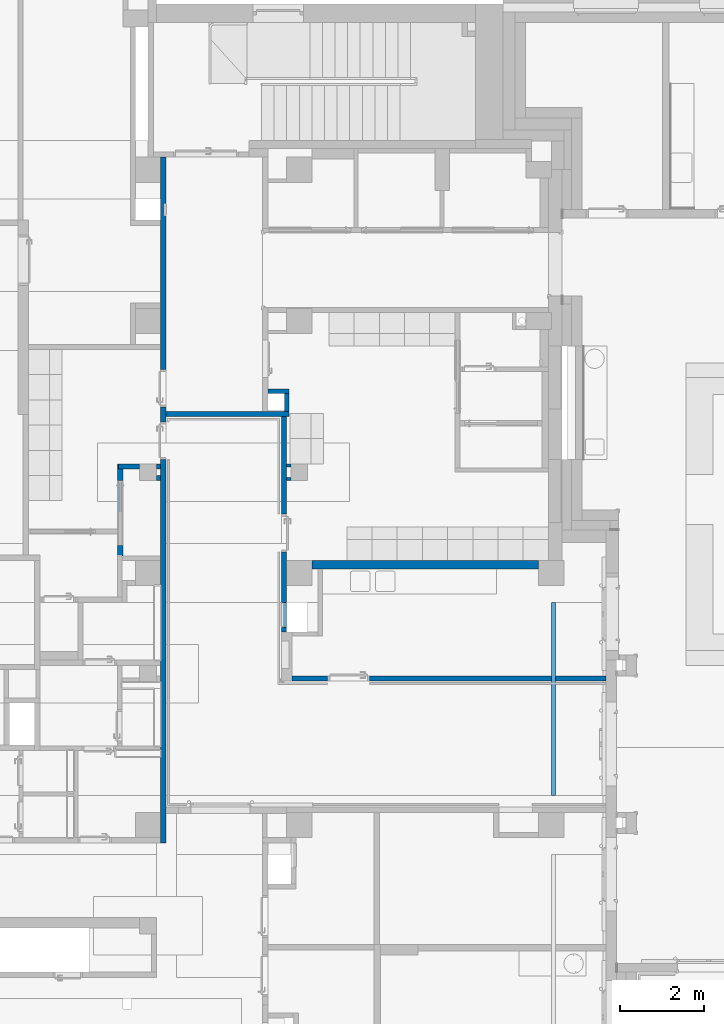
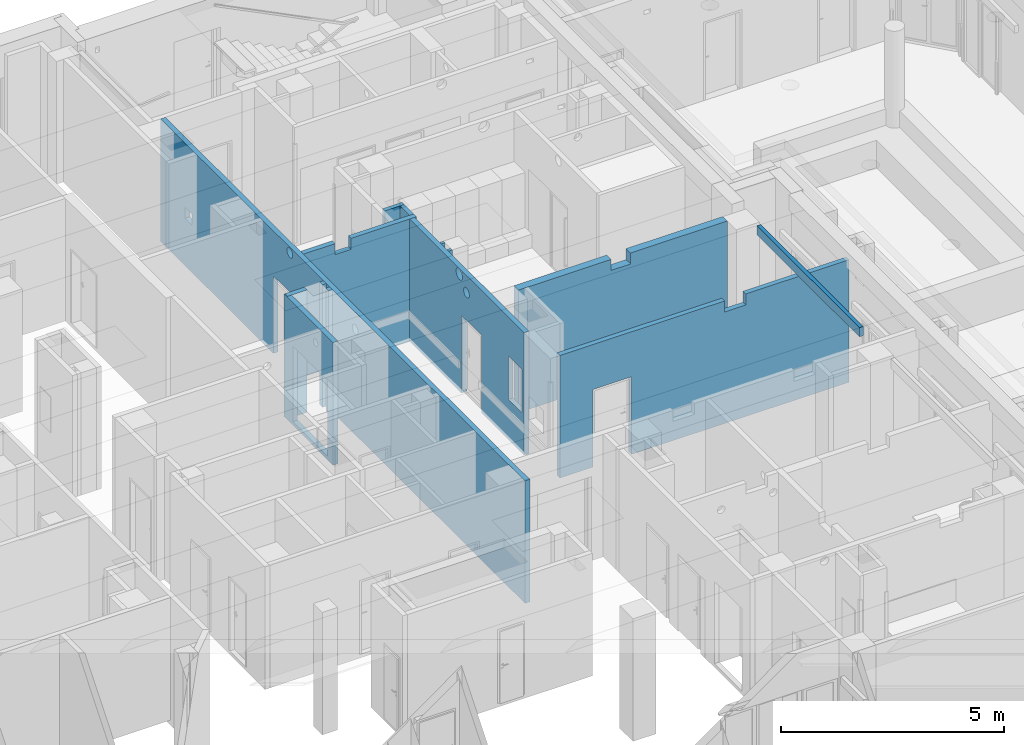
# One storey, part 51 of 140: 14 walls, 16 openings.
"""IFC4 building model written with IfcOpenShell, lengths in metres."""

from ifc_helpers import new_model, entity, si_unit, converted_unit, derived_unit, frame, frame_2d, origin, origin_with_axes, place, context, subcontext, project, spatial, polyline, rectangle, outline, extrude, material, layer, layer_set, layer_usage, element, save


model = new_model("IFC4")

# Units and contexts
model_context = context("Model", 3, precision=1e-05, world=origin())
body_context = subcontext(model_context, "Body", "Model", "MODEL_VIEW")
ifc_project = project(units=[si_unit("LENGTHUNIT", "METRE"), si_unit("AREAUNIT", "SQUARE_METRE"), si_unit("VOLUMEUNIT", "CUBIC_METRE"), si_unit("MASSUNIT", "GRAM", prefix="KILO"), converted_unit("PLANEANGLEUNIT", "DEGREE", entity("IfcPlaneAngleMeasure", 0.0174532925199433), si_unit("PLANEANGLEUNIT", "RADIAN"), dimensions=[0, 0, 0, 0, 0, 0, 0]), derived_unit("THERMALTRANSMITTANCEUNIT", [(si_unit("POWERUNIT", "WATT"), 1), (si_unit("THERMODYNAMICTEMPERATUREUNIT", "KELVIN"), -1), (si_unit("LENGTHUNIT", "METRE"), -2)]), derived_unit("VOLUMETRICFLOWRATEUNIT", [(si_unit("LENGTHUNIT", "METRE"), 3), (converted_unit("TIMEUNIT", "hour", entity("IfcTimeMeasure", 3600.0), si_unit("TIMEUNIT", "SECOND"), dimensions=[0, 0, 1, 0, 0, 0, 0]), -1), (si_unit("LENGTHUNIT", "METRE"), -1)])], contexts=[model_context])

# Site, building, storey
site_placement = place(None, origin())
site = spatial("IfcSite", under=ifc_project, at=site_placement, Name="3. ASŘ", CompositionType="ELEMENT")
building_placement = place(site_placement, origin())
building = spatial("IfcBuilding", under=site, at=building_placement, Name="Pavilon C", CompositionType="ELEMENT")
storey_placement = place(building_placement, origin())
storey = spatial("IfcBuildingStorey", under=building, at=storey_placement, Name="Půdorys 1.NP", CompositionType="ELEMENT", Elevation=0.0)

# Walls
ifc_material_1 = material(Name="ZDIVO Z CDm")
ifc_layer_1 = layer(ifc_material_1, 0.125)
ifc_layer_set_1 = layer_set([ifc_layer_1])
ifc_layer_usage_1 = layer_usage(ifc_layer_set_1, "AXIS2", "POSITIVE", 0.0)
wall_1_placement = place(storey_placement, frame((40.65, 21.8, -0.1), z_axis=(0.0, 0.0, 1.0), x_axis=(-1.0, 0.0, 0.0)))
element("IfcWall", 1, at=wall_1_placement, inside=storey, material=ifc_layer_usage_1, Name="ZDIVO Z CDm", context=body_context, shape_type="SweptSolid", body=[
    extrude(rectangle(XDim=0.1, YDim=0.125, at=frame_2d((0.05, 0.0625), x_axis=(1.0, 0.0))), origin_with_axes(), (0.0, 0.0, 1.0), 3.35),
])
ifc_material_2 = material(Name="ZDIVO Z CDm")
ifc_layer_2 = layer(ifc_material_2, 0.125)
ifc_layer_set_2 = layer_set([ifc_layer_2])
ifc_layer_usage_2 = layer_usage(ifc_layer_set_2, "AXIS2", "POSITIVE", 0.0)
wall_2_placement = place(storey_placement, frame((40.65, 21.525, -0.1), z_axis=(0.0, 0.0, 1.0), x_axis=(-1.0, 0.0, 0.0)))
element("IfcWall", 2, at=wall_2_placement, inside=storey, material=ifc_layer_usage_2, Name="ZDIVO Z CDm", context=body_context, shape_type="SweptSolid", body=[
    extrude(rectangle(XDim=0.1, YDim=0.125, at=frame_2d((0.05, 0.0625), x_axis=(1.0, 0.0))), origin_with_axes(), (0.0, 0.0, 1.0), 3.35),
])

# Wall, openings
ifc_material_3 = material(Name="ZDIVO Z CDm")
ifc_layer_3 = layer(ifc_material_3, 0.125)
ifc_layer_set_3 = layer_set([ifc_layer_3])
ifc_layer_usage_3 = layer_usage(ifc_layer_set_3, "AXIS2", "POSITIVE", 0.0)
wall_3_placement = place(storey_placement, frame((40.775, 12.775, -0.1), z_axis=(0.0, 0.0, 1.0), x_axis=(0.0, 1.0, 0.0)))
wall_3 = element("IfcWall", 3, at=wall_3_placement, inside=storey, material=ifc_layer_usage_3, Name="ZDIVO Z CDm", context=body_context, shape_type="SweptSolid", body=[
    extrude(rectangle(XDim=16.325, YDim=0.125, at=frame_2d((8.1625, 0.0625), x_axis=(1.0, 0.0))), origin_with_axes(), (0.0, 0.0, 1.0), 3.35),
])
opening_1_placement = place(wall_3_placement, frame((10.4048246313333, 0.0, 3.07), z_axis=(0.0, 1.0, 0.0), x_axis=(0.0, 0.0, 1.0)))
element("IfcOpeningElement", 4, at=opening_1_placement, cuts=wall_3, Name="VZT", ObjectType="Opening", context=body_context, shape_type="SweptSolid", body=[
    extrude(outline(polyline([(0.129999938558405, 0.0), (0.116411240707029, 0.000712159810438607), (0.102971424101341, 0.00284082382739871), (0.0898277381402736, 0.00636266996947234), (0.077124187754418, 0.0112391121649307), (0.0649999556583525, 0.0174167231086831), (0.0535878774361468, 0.0248278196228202), (0.0430129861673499, 0.0333912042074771), (0.0333911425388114, 0.0430130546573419), (0.0248277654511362, 0.0535879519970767), (0.0174166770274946, 0.0650000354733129), (0.0112390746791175, 0.0771242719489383), (0.00636264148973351, 0.089827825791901), (0.00284080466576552, 0.102971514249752), (0.000712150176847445, 0.116411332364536), (0.0, 0.130000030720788), (0.000712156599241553, 0.143588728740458), (0.00284081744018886, 0.157028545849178), (0.00636266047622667, 0.170172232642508), (0.0112390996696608, 0.182875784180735), (0.0174167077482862, 0.195000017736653), (0.0248278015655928, 0.206412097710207), (0.0333911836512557, 0.216986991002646), (0.0430130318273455, 0.226608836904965), (0.0535879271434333, 0.235172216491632), (0.0650000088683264, 0.242583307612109), (0.0771242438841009, 0.248760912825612), (0.0898277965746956, 0.253637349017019), (0.102971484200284, 0.257159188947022), (0.116411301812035, 0.259287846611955), (0.129999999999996, 0.26), (0.143588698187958, 0.259287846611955), (0.157028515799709, 0.257159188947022), (0.170172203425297, 0.253637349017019), (0.182875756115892, 0.248760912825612), (0.194999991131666, 0.242583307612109), (0.206412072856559, 0.235172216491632), (0.216986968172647, 0.226608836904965), (0.226608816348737, 0.216986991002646), (0.2351721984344, 0.206412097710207), (0.242583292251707, 0.195000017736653), (0.248760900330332, 0.182875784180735), (0.253637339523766, 0.170172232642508), (0.257159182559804, 0.157028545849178), (0.259287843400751, 0.143588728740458), (0.259999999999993, 0.130000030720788), (0.259287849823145, 0.116411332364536), (0.257159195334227, 0.102971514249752), (0.253637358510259, 0.089827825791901), (0.248760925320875, 0.0771242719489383), (0.242583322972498, 0.0650000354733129), (0.235172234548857, 0.0535879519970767), (0.226608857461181, 0.0430130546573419), (0.216987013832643, 0.0333912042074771), (0.206412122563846, 0.0248278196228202), (0.19500004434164, 0.0174167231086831), (0.182875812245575, 0.0112391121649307), (0.170172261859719, 0.00636266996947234), (0.157028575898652, 0.00284082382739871), (0.143588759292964, 0.000712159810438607), (0.129999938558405, 0.0)])), origin_with_axes(), (0.0, 0.0, 1.0), 0.125),
])
opening_2_placement = place(wall_3_placement, frame((10.375, 0.0, 0.0), z_axis=(0.0, 1.0, 0.0), x_axis=(0.0, 0.0, 1.0)))
element("IfcOpeningElement", 5, at=opening_2_placement, cuts=wall_3, Name="Dveřní otvor", ObjectType="Opening", context=body_context, shape_type="SweptSolid", body=[
    extrude(outline(polyline([(0.0, 0.9), (2.12, 0.9), (2.12, 0.0), (0.0, 0.0), (0.0, 0.9)])), origin_with_axes(), (0.0, 0.0, 1.0), 0.125),
])
opening_3_placement = place(wall_3_placement, frame((14.925, 0.0, 1.3), z_axis=(0.0, 1.0, 0.0), x_axis=(0.0, 0.0, 1.0)))
element("IfcOpeningElement", 6, at=opening_3_placement, cuts=wall_3, Name="Okenní otvor", ObjectType="Opening", context=body_context, shape_type="SweptSolid", body=[
    extrude(outline(polyline([(0.0, 0.3), (0.3, 0.3), (0.3, 0.0), (0.0, 0.0), (0.0, 0.3)])), origin_with_axes(), (0.0, 0.0, 1.0), 0.125),
])
opening_4_placement = place(wall_3_placement, frame((10.025, 0.125, 0.0), z_axis=(0.0, -1.0, 0.0), x_axis=(0.0, 0.0, 1.0)))
element("IfcOpeningElement", 7, at=opening_4_placement, cuts=wall_3, Name="Dveřní otvor", ObjectType="Opening", context=body_context, shape_type="SweptSolid", body=[
    extrude(outline(polyline([(0.0, 0.9), (2.12, 0.9), (2.12, 0.0), (0.0, 0.0), (0.0, 0.9)])), origin_with_axes(), (0.0, 0.0, 1.0), 0.125),
])
opening_5_placement = place(wall_3_placement, frame((7.47358383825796, 0.0, 2.75), z_axis=(0.0, 1.0, 0.0), x_axis=(0.0, 0.0, 1.0)))
element("IfcOpeningElement", 8, at=opening_5_placement, cuts=wall_3, Name="VZT", ObjectType="Opening", context=body_context, shape_type="SweptSolid", body=[
    extrude(outline(polyline([(0.129999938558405, 0.0), (0.116411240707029, 0.000712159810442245), (0.102971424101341, 0.00284082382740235), (0.0898277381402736, 0.00636266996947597), (0.077124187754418, 0.0112391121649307), (0.0649999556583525, 0.0174167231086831), (0.0535878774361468, 0.0248278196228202), (0.0430129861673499, 0.0333912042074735), (0.0333911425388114, 0.0430130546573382), (0.0248277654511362, 0.0535879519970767), (0.0174166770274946, 0.0650000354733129), (0.0112390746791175, 0.0771242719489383), (0.00636264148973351, 0.0898278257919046), (0.00284080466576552, 0.102971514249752), (0.000712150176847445, 0.116411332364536), (0.0, 0.130000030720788), (0.000712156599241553, 0.143588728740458), (0.00284081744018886, 0.157028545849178), (0.00636266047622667, 0.170172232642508), (0.0112390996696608, 0.182875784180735), (0.0174167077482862, 0.195000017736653), (0.0248278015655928, 0.206412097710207), (0.0333911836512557, 0.21698699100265), (0.0430130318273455, 0.226608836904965), (0.0535879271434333, 0.235172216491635), (0.0650000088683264, 0.242583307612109), (0.0771242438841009, 0.248760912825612), (0.0898277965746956, 0.253637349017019), (0.102971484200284, 0.257159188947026), (0.116411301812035, 0.259287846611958), (0.129999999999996, 0.26), (0.143588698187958, 0.259287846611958), (0.157028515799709, 0.257159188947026), (0.170172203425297, 0.253637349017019), (0.182875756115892, 0.248760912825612), (0.194999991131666, 0.242583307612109), (0.206412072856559, 0.235172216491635), (0.216986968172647, 0.226608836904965), (0.226608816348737, 0.21698699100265), (0.2351721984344, 0.206412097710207), (0.242583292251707, 0.195000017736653), (0.248760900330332, 0.182875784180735), (0.253637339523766, 0.170172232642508), (0.257159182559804, 0.157028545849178), (0.259287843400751, 0.143588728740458), (0.259999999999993, 0.130000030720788), (0.259287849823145, 0.116411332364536), (0.257159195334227, 0.102971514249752), (0.253637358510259, 0.0898278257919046), (0.248760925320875, 0.0771242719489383), (0.242583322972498, 0.0650000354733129), (0.235172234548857, 0.0535879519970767), (0.226608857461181, 0.0430130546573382), (0.216987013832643, 0.0333912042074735), (0.206412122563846, 0.0248278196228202), (0.19500004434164, 0.0174167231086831), (0.182875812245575, 0.0112391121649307), (0.170172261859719, 0.00636266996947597), (0.157028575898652, 0.00284082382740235), (0.143588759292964, 0.000712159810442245), (0.129999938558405, 0.0)])), origin_with_axes(), (0.0, 0.0, 1.0), 0.125),
])

# Wall
ifc_material_4 = material(Name="EPS")
ifc_layer_4 = layer(ifc_material_4, 0.1)
ifc_layer_set_4 = layer_set([ifc_layer_4])
ifc_layer_usage_4 = layer_usage(ifc_layer_set_4, "AXIS2", "POSITIVE", 0.0)
wall_4_placement = place(storey_placement, frame((49.95, 18.5, 3.25), z_axis=(0.0, 0.0, 1.0), x_axis=(0.0, -1.0, 0.0)))
element("IfcWall", 9, at=wall_4_placement, inside=storey, material=ifc_layer_usage_4, Name="EPS", context=body_context, shape_type="SweptSolid", body=[
    extrude(rectangle(XDim=4.6, YDim=0.1, at=frame_2d((2.3, 0.05), x_axis=(1.0, 0.0))), origin_with_axes(), (0.0, 0.0, 1.0), 0.25),
])

# Wall, openings
ifc_material_5 = material(Name="SDK - 1 KCE + DVOJITÉ OPLÁŠTĚNÍ")
ifc_layer_5 = layer(ifc_material_5, 0.125)
ifc_layer_set_5 = layer_set([ifc_layer_5])
ifc_layer_usage_5 = layer_usage(ifc_layer_set_5, "AXIS2", "POSITIVE", 0.0)
wall_5_placement = place(storey_placement, frame((43.525, 22.925, -0.1), z_axis=(0.0, 0.0, 1.0), x_axis=(0.0, -1.0, 0.0)))
wall_5 = element("IfcWall", 10, at=wall_5_placement, inside=storey, material=ifc_layer_usage_5, Name="SDK - 1 KCE + DVOJITÉ OPLÁŠTĚNÍ", context=body_context, shape_type="SweptSolid", body=[
    extrude(rectangle(XDim=5.12499999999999, YDim=0.125, at=frame_2d((2.5625, 0.0625), x_axis=(1.0, 0.0))), origin_with_axes(), (0.0, 0.0, 1.0), 3.35),
])
opening_6_placement = place(wall_5_placement, frame((3.225, 0.125, 0.0), z_axis=(0.0, -1.0, 0.0), x_axis=(0.0, 0.0, 1.0)))
element("IfcOpeningElement", 11, at=opening_6_placement, cuts=wall_5, Name="Dveřní otvor", ObjectType="Opening", context=body_context, shape_type="SweptSolid", body=[
    extrude(outline(polyline([(0.0, 0.9), (2.12, 0.9), (2.12, 0.0), (0.0, 0.0), (0.0, 0.9)])), origin_with_axes(), (0.0, 0.0, 1.0), 0.125),
])
opening_7_placement = place(wall_5_placement, frame((4.425, 0.0, 1.1), z_axis=(0.0, 1.0, 0.0), x_axis=(0.0, 0.0, 1.0)))
element("IfcOpeningElement", 12, at=opening_7_placement, cuts=wall_5, Name="Okenní otvor", ObjectType="Opening", context=body_context, shape_type="SweptSolid", body=[
    extrude(outline(polyline([(0.0, 0.6), (1.2, 0.6), (1.2, 0.0), (0.0, 0.0), (0.0, 0.6)])), origin_with_axes(), (0.0, 0.0, 1.0), 0.125),
])
opening_8_placement = place(wall_5_placement, frame((2.3799120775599, 0.125, 3.05), z_axis=(0.0, -1.0, 0.0), x_axis=(0.0, 0.0, 1.0)))
element("IfcOpeningElement", 13, at=opening_8_placement, cuts=wall_5, Name="VZT", ObjectType="Opening", context=body_context, shape_type="SweptSolid", body=[
    extrude(outline(polyline([(0.149999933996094, 0.0), (0.134320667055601, 0.00082172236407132), (0.11881318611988, 0.00327787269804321), (0.10364739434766, 0.0073415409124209), (0.0889894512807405, 0.0129682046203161), (0.074999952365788, 0.0200962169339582), (0.0618321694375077, 0.0286474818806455), (0.0496303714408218, 0.0385283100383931), (0.0385282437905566, 0.0496304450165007), (0.0286474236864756, 0.0618322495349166), (0.0200961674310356, 0.0750000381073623), (0.0129681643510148, 0.0889895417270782), (0.00734151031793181, 0.103647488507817), (0.00327785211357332, 0.118813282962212), (0.000821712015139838, 0.134320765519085), (0.0, 0.150000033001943), (0.000821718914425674, 0.165679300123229), (0.00327786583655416, 0.181186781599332), (0.00734153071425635, 0.196352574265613), (0.012968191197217, 0.211010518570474), (0.0200962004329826, 0.225000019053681), (0.0286474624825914, 0.238167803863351), (0.0385282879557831, 0.250369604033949), (0.0496304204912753, 0.261471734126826), (0.0618322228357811, 0.271352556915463), (0.0750000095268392, 0.279903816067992), (0.088989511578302, 0.287031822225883), (0.103647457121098, 0.292658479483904), (0.118813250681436, 0.296722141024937), (0.134320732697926, 0.299178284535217), (0.149999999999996, 0.3), (0.165679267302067, 0.299178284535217), (0.181186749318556, 0.296722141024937), (0.196352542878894, 0.292658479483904), (0.211010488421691, 0.287031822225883), (0.224999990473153, 0.279903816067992), (0.238167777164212, 0.271352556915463), (0.250369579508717, 0.261471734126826), (0.26147171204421, 0.250369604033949), (0.271352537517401, 0.238167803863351), (0.27990379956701, 0.225000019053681), (0.287031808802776, 0.211010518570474), (0.292658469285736, 0.196352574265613), (0.296722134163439, 0.181186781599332), (0.299178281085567, 0.165679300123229), (0.299999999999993, 0.150000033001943), (0.299178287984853, 0.134320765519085), (0.296722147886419, 0.118813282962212), (0.292658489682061, 0.103647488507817), (0.287031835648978, 0.0889895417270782), (0.279903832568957, 0.0750000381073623), (0.271352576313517, 0.0618322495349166), (0.261471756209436, 0.0496304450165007), (0.250369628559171, 0.0385283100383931), (0.238167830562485, 0.0286474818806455), (0.225000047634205, 0.0200962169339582), (0.211010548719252, 0.0129682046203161), (0.196352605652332, 0.0073415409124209), (0.181186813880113, 0.00327787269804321), (0.165679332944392, 0.00082172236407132), (0.149999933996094, 0.0)])), origin_with_axes(), (0.0, 0.0, 1.0), 0.125),
])
opening_9_placement = place(wall_5_placement, frame((2.41653518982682, 0.0, 2.75), z_axis=(0.0, 1.0, 0.0), x_axis=(0.0, 0.0, 1.0)))
element("IfcOpeningElement", 14, at=opening_9_placement, cuts=wall_5, Name="VZT", ObjectType="Opening", context=body_context, shape_type="SweptSolid", body=[
    extrude(outline(polyline([(0.129999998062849, 0.0), (0.116411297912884, 0.000712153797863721), (0.102971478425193, 0.00284081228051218), (0.0898277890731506, 0.00636265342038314), (0.0771242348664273, 0.0112390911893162), (0.0649999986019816, 0.0174166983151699), (0.0535879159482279, 0.0248277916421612), (0.0430130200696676, 0.033391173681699), (0.0333911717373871, 0.0430130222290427), (0.0248277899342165, 0.0535879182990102), (0.0174166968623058, 0.0650000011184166), (0.011239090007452, 0.0771242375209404), (0.00636265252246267, 0.0898277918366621), (0.00284081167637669, 0.102971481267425), (0.000712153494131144, 0.116411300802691), (0.0, 0.130000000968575), (0.00071215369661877, 0.143588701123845), (0.00284081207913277, 0.157028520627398), (0.00636265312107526, 0.17017221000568), (0.0112390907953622, 0.182875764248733), (0.0174166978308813, 0.195000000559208), (0.0248277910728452, 0.206412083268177), (0.033391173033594, 0.216986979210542), (0.0430130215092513, 0.226608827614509), (0.0535879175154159, 0.235172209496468), (0.0650000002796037, 0.242583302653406), (0.0771242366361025, 0.248760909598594), (0.0898277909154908, 0.253637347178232), (0.102971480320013, 0.257159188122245), (0.116411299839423, 0.259287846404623), (0.13, 0.26), (0.143588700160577, 0.259287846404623), (0.157028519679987, 0.257159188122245), (0.170172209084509, 0.253637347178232), (0.182875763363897, 0.248760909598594), (0.194999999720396, 0.242583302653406), (0.206412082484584, 0.235172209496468), (0.216986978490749, 0.226608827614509), (0.226608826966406, 0.216986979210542), (0.235172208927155, 0.206412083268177), (0.242583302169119, 0.195000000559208), (0.248760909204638, 0.182875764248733), (0.253637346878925, 0.17017221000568), (0.257159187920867, 0.157028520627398), (0.259287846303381, 0.143588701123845), (0.26, 0.130000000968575), (0.259287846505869, 0.116411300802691), (0.257159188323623, 0.102971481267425), (0.253637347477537, 0.0898277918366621), (0.248760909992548, 0.0771242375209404), (0.242583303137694, 0.0650000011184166), (0.235172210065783, 0.0535879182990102), (0.226608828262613, 0.0430130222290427), (0.216986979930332, 0.033391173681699), (0.206412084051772, 0.0248277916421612), (0.195000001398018, 0.0174166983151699), (0.182875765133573, 0.0112390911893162), (0.170172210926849, 0.00636265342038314), (0.157028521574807, 0.00284081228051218), (0.143588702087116, 0.000712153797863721), (0.129999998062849, 0.0)])), origin_with_axes(), (0.0, 0.0, 1.0), 0.125),
])

# Walls
ifc_material_6 = material(Name="SDK OPL. PROFESÍ/SDK OPL. BEZ PO")
ifc_layer_6 = layer(ifc_material_6, 0.075)
ifc_layer_set_6 = layer_set([ifc_layer_6])
ifc_layer_usage_6 = layer_usage(ifc_layer_set_6, "AXIS2", "POSITIVE", 0.0)
wall_6_placement = place(storey_placement, frame((43.65, 21.4, 0.0)))
element("IfcWall", 15, at=wall_6_placement, inside=storey, material=ifc_layer_usage_6, Name="SDK OPL. PROFESÍ/SDK OPL. BEZ PO", context=body_context, shape_type="SweptSolid", body=[
    extrude(rectangle(XDim=0.1, YDim=0.075, at=frame_2d((0.05, 0.0375), x_axis=(1.0, 0.0))), origin_with_axes(), (0.0, 0.0, 1.0), 3.25),
])
ifc_material_7 = material(Name="SDK OPL. PROFESÍ/SDK OPL. BEZ PO")
ifc_layer_7 = layer(ifc_material_7, 0.075)
ifc_layer_set_7 = layer_set([ifc_layer_7])
ifc_layer_usage_7 = layer_usage(ifc_layer_set_7, "AXIS2", "POSITIVE", 0.0)
wall_7_placement = place(storey_placement, frame((43.65, 21.725, 0.0)))
element("IfcWall", 16, at=wall_7_placement, inside=storey, material=ifc_layer_usage_7, Name="SDK OPL. PROFESÍ/SDK OPL. BEZ PO", context=body_context, shape_type="SweptSolid", body=[
    extrude(rectangle(XDim=0.1, YDim=0.075, at=frame_2d((0.05, 0.0375), x_axis=(1.0, 0.0))), origin_with_axes(), (0.0, 0.0, 1.0), 3.25),
])

# Wall, opening
ifc_material_8 = material(Name="SDK - 1 KCE + DVOJITÉ OPLÁŠTĚNÍ")
ifc_layer_8 = layer(ifc_material_8, 0.2)
ifc_layer_set_8 = layer_set([ifc_layer_8])
ifc_layer_usage_8 = layer_usage(ifc_layer_set_8, "AXIS2", "POSITIVE", 0.0)
wall_8_placement = place(storey_placement, frame((49.65, 19.5, -0.1), z_axis=(0.0, 0.0, 1.0), x_axis=(-1.0, 0.0, 0.0)))
wall_8 = element("IfcWall", 17, at=wall_8_placement, inside=storey, material=ifc_layer_usage_8, Name="SDK - 1 KCE + DVOJITÉ OPLÁŠTĚNÍ", context=body_context, shape_type="SweptSolid", body=[
    extrude(rectangle(XDim=5.4, YDim=0.2, at=frame_2d((2.7, 0.1), x_axis=(1.0, 0.0))), origin_with_axes(), (0.0, 0.0, 1.0), 3.35),
])
opening_10_placement = place(wall_8_placement, frame((3.005000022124, 0.2, 3.05), z_axis=(0.0, -1.0, 0.0), x_axis=(0.0, 0.0, 1.0)))
element("IfcOpeningElement", 18, at=opening_10_placement, cuts=wall_8, Name="VZT", ObjectType="Opening", context=body_context, shape_type="SweptSolid", body=[
    extrude(outline(polyline([(0.0, 0.5), (0.3, 0.5), (0.3, 0.0), (0.0, 0.0), (0.0, 0.5)])), origin_with_axes(), (0.0, 0.0, 1.0), 0.2),
])

# Walls
ifc_material_9 = material(Name="SDK ŠACHTOVÁ STĚNA/SDK OPL. S PO")
ifc_layer_9 = layer(ifc_material_9, 0.1)
ifc_layer_set_9 = layer_set([ifc_layer_9])
ifc_layer_usage_9 = layer_usage(ifc_layer_set_9, "AXIS2", "POSITIVE", 0.0)
wall_9_placement = place(storey_placement, frame((43.2, 23.475, 0.0)))
element("IfcWall", 19, at=wall_9_placement, inside=storey, material=ifc_layer_usage_9, Name="SDK ŠACHTOVÁ STĚNA/SDK OPL. S PO", context=body_context, shape_type="SweptSolid", body=[
    extrude(rectangle(XDim=0.5, YDim=0.1, at=frame_2d((0.25, 0.05), x_axis=(1.0, 0.0))), origin_with_axes(), (0.0, 0.0, 1.0), 3.25),
])
ifc_material_10 = material(Name="SDK ŠACHTOVÁ STĚNA/SDK OPL. S PO")
ifc_layer_10 = layer(ifc_material_10, 0.1)
ifc_layer_set_10 = layer_set([ifc_layer_10])
ifc_layer_usage_10 = layer_usage(ifc_layer_set_10, "AXIS2", "POSITIVE", 0.0)
wall_10_placement = place(storey_placement, frame((43.6, 23.475, 0.0), z_axis=(0.0, 0.0, 1.0), x_axis=(0.0, -1.0, 0.0)))
element("IfcWall", 20, at=wall_10_placement, inside=storey, material=ifc_layer_usage_10, Name="SDK ŠACHTOVÁ STĚNA/SDK OPL. S PO", context=body_context, shape_type="SweptSolid", body=[
    extrude(rectangle(XDim=0.425, YDim=0.1, at=frame_2d((0.2125, 0.05), x_axis=(1.0, 0.0))), origin_with_axes(), (0.0, 0.0, 1.0), 3.25),
])

# Wall, openings
ifc_material_11 = material(Name="SDK - 1 KCE + DVOJITÉ OPLÁŠTĚNÍ")
ifc_layer_11 = layer(ifc_material_11, 0.125)
ifc_layer_set_11 = layer_set([ifc_layer_11])
ifc_layer_usage_11 = layer_usage(ifc_layer_set_11, "AXIS2", "POSITIVE", 0.0)
wall_11_placement = place(storey_placement, frame((40.775, 22.925, -0.1)))
wall_11 = element("IfcWall", 21, at=wall_11_placement, inside=storey, material=ifc_layer_usage_11, Name="SDK - 1 KCE + DVOJITÉ OPLÁŠTĚNÍ", context=body_context, shape_type="SweptSolid", body=[
    extrude(rectangle(XDim=2.925, YDim=0.125, at=frame_2d((1.4625, 0.0625), x_axis=(1.0, 0.0))), origin_with_axes(), (0.0, 0.0, 1.0), 3.35),
])
opening_11_placement = place(wall_11_placement, frame((0.04134292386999, 0.0, 2.9), z_axis=(0.0, 1.0, 0.0), x_axis=(0.0, 0.0, 1.0)))
element("IfcOpeningElement", 22, at=opening_11_placement, cuts=wall_11, Name="CHL", ObjectType="Opening", context=body_context, shape_type="SweptSolid", body=[
    extrude(outline(polyline([(0.0, 0.1), (0.15, 0.1), (0.15, 0.0), (0.0, 0.0), (0.0, 0.1)])), origin_with_axes(), (0.0, 0.0, 1.0), 0.125),
])
opening_12_placement = place(wall_11_placement, frame((0.82535089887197, 0.0, 3.05), z_axis=(0.0, 1.0, 0.0), x_axis=(0.0, 0.0, 1.0)))
element("IfcOpeningElement", 23, at=opening_12_placement, cuts=wall_11, Name="VZT", ObjectType="Opening", context=body_context, shape_type="SweptSolid", body=[
    extrude(outline(polyline([(0.0, 0.415), (0.3, 0.415), (0.3, 0.0), (0.0, 0.0), (0.0, 0.415)])), origin_with_axes(), (0.0, 0.0, 1.0), 0.125),
])

# Wall
ifc_material_12 = material(Name="SDK - 1 KCE + DVOJITÉ OPLÁŠTĚNÍ")
ifc_layer_12 = layer(ifc_material_12, 0.125)
ifc_layer_set_12 = layer_set([ifc_layer_12])
ifc_layer_usage_12 = layer_usage(ifc_layer_set_12, "AXIS2", "POSITIVE", 0.0)
wall_12_placement = place(storey_placement, frame((39.65, 21.675, -0.1)))
element("IfcWall", 24, at=wall_12_placement, inside=storey, material=ifc_layer_usage_12, Name="SDK - 1 KCE + DVOJITÉ OPLÁŠTĚNÍ", context=body_context, shape_type="SweptSolid", body=[
    extrude(rectangle(XDim=0.5, YDim=0.125, at=frame_2d((0.25, 0.0625), x_axis=(1.0, 0.0))), origin_with_axes(), (0.0, 0.0, 1.0), 3.35),
])

# Wall, openings
ifc_material_13 = material(Name="SDK - 1 KCE + DVOJITÉ OPLÁŠTĚNÍ")
ifc_layer_13 = layer(ifc_material_13, 0.125)
ifc_layer_set_13 = layer_set([ifc_layer_13])
ifc_layer_usage_13 = layer_usage(ifc_layer_set_13, "AXIS2", "POSITIVE", 0.0)
wall_13_placement = place(storey_placement, frame((39.75, 19.6, -0.1), z_axis=(0.0, 0.0, 1.0), x_axis=(0.0, 1.0, 0.0)))
wall_13 = element("IfcWall", 25, at=wall_13_placement, inside=storey, material=ifc_layer_usage_13, Name="SDK - 1 KCE + DVOJITÉ OPLÁŠTĚNÍ", context=body_context, shape_type="SweptSolid", body=[
    extrude(outline(polyline([(0.0, -0.125), (2.075, -0.125), (2.075, -0.025), (2.2, -0.025), (2.2, 0.0), (0.0, 0.0), (0.0, -0.125)])), frame((0.0, 0.125, 0.0), z_axis=(0.0, 0.0, 1.0), x_axis=(1.0, 0.0, 0.0)), (0.0, 0.0, 1.0), 3.35),
])
opening_13_placement = place(wall_13_placement, frame((0.255, 0.0, 0.1), z_axis=(0.0, 1.0, 0.0), x_axis=(0.0, 0.0, 1.0)))
element("IfcOpeningElement", 26, at=opening_13_placement, cuts=wall_13, Name="Dveřní otvor", ObjectType="Opening", context=body_context, shape_type="SweptSolid", body=[
    extrude(outline(polyline([(0.0, 1.545), (2.06, 1.545), (2.06, 0.0), (0.0, 0.0), (0.0, 1.545)])), origin_with_axes(), (0.0, 0.0, 1.0), 0.125),
])
opening_14_placement = place(wall_13_placement, frame((0.678583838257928, 0.0, 2.78), z_axis=(0.0, 1.0, 0.0), x_axis=(0.0, 0.0, 1.0)))
element("IfcOpeningElement", 27, at=opening_14_placement, cuts=wall_13, Name="VZT", ObjectType="Opening", context=body_context, shape_type="SweptSolid", body=[
    extrude(outline(polyline([(0.0999999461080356, 0.0), (0.0895471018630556, 0.000547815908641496), (0.0792087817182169, 0.00218525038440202), (0.0690982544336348, 0.00489436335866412), (0.0593262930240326, 0.00864547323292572), (0.0499999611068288, 0.0133974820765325), (0.0412214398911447, 0.0190983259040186), (0.0330869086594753, 0.0256855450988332), (0.025685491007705, 0.0330869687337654), (0.0190982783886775, 0.041221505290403), (0.0133974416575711, 0.0500000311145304), (0.00864544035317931, 0.0593263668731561), (0.00489433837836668, 0.0690983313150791), (0.00218523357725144, 0.0792088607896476), (0.000547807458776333, 0.0895471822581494), (0.0, 0.100000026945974), (0.000547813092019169, 0.11045287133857), (0.00218524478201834, 0.120791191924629), (0.00489435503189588, 0.130901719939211), (0.00864546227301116, 0.140673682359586), (0.0133974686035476, 0.150000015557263), (0.0190983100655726, 0.158778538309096), (0.0256855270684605, 0.166913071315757), (0.0330869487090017, 0.174314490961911), (0.0412214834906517, 0.180901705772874), (0.0500000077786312, 0.186602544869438), (0.0593263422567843, 0.191354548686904), (0.0690983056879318, 0.195105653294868), (0.0792088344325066, 0.197814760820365), (0.0895471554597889, 0.199452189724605), (0.0999999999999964, 0.2), (0.110452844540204, 0.199452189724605), (0.120791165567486, 0.197814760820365), (0.130901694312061, 0.195105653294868), (0.140673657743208, 0.191354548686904), (0.149999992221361, 0.186602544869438), (0.158778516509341, 0.180901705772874), (0.166913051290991, 0.174314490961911), (0.174314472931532, 0.166913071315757), (0.18090168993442, 0.158778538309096), (0.186602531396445, 0.150000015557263), (0.191354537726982, 0.140673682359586), (0.195105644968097, 0.130901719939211), (0.197814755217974, 0.120791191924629), (0.199452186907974, 0.11045287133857), (0.199999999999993, 0.100000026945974), (0.199452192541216, 0.0895471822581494), (0.197814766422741, 0.0792088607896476), (0.195105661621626, 0.0690983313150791), (0.191354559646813, 0.0593263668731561), (0.186602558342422, 0.0500000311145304), (0.180901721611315, 0.041221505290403), (0.174314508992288, 0.0330869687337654), (0.166913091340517, 0.0256855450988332), (0.158778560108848, 0.0190983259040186), (0.150000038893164, 0.0133974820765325), (0.14067370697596, 0.00864547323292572), (0.130901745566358, 0.00489436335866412), (0.120791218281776, 0.00218525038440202), (0.110452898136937, 0.000547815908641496), (0.0999999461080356, 0.0)])), origin_with_axes(), (0.0, 0.0, 1.0), 0.125),
])

ifc_material_14 = material(Name="SDK - 1 KCE + DVOJITÉ OPLÁŠTĚNÍ")
ifc_layer_14 = layer(ifc_material_14, 0.125)
ifc_layer_set_14 = layer_set([ifc_layer_14])
ifc_layer_usage_14 = layer_usage(ifc_layer_set_14, "AXIS2", "POSITIVE", 0.0)
wall_14_placement = place(storey_placement, frame((43.775, 16.625, -0.1)))
wall_14 = element("IfcWall", 28, at=wall_14_placement, inside=storey, material=ifc_layer_usage_14, Name="SDK - 1 KCE + DVOJITÉ OPLÁŠTĚNÍ", context=body_context, shape_type="SweptSolid", body=[
    extrude(rectangle(XDim=7.475, YDim=0.125, at=frame_2d((3.7375, 0.0625), x_axis=(1.0, 0.0))), origin_with_axes(), (0.0, 0.0, 1.0), 3.35),
])
opening_15_placement = place(wall_14_placement, frame((0.85, 0.0, 0.0), z_axis=(0.0, 1.0, 0.0), x_axis=(0.0, 0.0, 1.0)))
element("IfcOpeningElement", 29, at=opening_15_placement, cuts=wall_14, Name="Dveřní otvor", ObjectType="Opening", context=body_context, shape_type="SweptSolid", body=[
    extrude(outline(polyline([(0.0, 1.0), (2.12, 1.0), (2.12, 0.0), (0.0, 0.0), (0.0, 1.0)])), origin_with_axes(), (0.0, 0.0, 1.0), 0.125),
])
opening_16_placement = place(wall_14_placement, frame((4.25778719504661, 0.0, 3.05), z_axis=(0.0, 1.0, 0.0), x_axis=(0.0, 0.0, 1.0)))
element("IfcOpeningElement", 30, at=opening_16_placement, cuts=wall_14, Name="VZT", ObjectType="Opening", context=body_context, shape_type="SweptSolid", body=[
    extrude(outline(polyline([(0.0, 0.55), (0.3, 0.55), (0.3, 0.0), (0.0, 0.0), (0.0, 0.55)])), origin_with_axes(), (0.0, 0.0, 1.0), 0.125),
])

save(model, "model.ifc")
